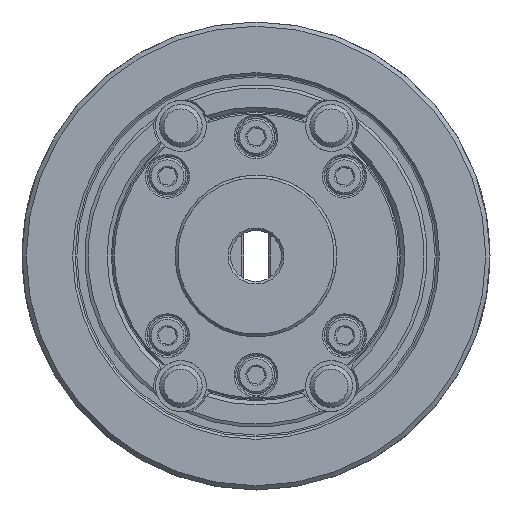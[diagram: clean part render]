
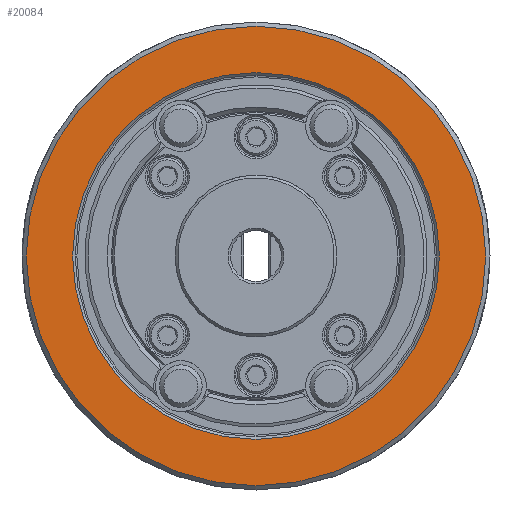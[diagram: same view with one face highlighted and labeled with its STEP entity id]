
A CAD part, left-side view. The second image highlights one B-rep face of the part: STEP entity #20084.
In plain terms, the highlighted planar face has unit normal (-1, 0, 0).
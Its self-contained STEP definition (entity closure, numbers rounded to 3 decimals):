
#49 = AXIS2_PLACEMENT_3D ( 'NONE', #30477, #45502, #7573 ) ;
#76 = DIRECTION ( 'NONE',  ( 0., 0., -1. ) ) ;
#467 = DIRECTION ( 'NONE',  ( 0., 0., -1. ) ) ;
#5152 = CARTESIAN_POINT ( 'NONE',  ( -59., 0., 0. ) ) ;
#6650 = CIRCLE ( 'NONE', #10673, 43.1 ) ;
#7573 = DIRECTION ( 'NONE',  ( 0., 0., -1. ) ) ;
#7851 = PLANE ( 'NONE',  #12711 ) ;
#10673 = AXIS2_PLACEMENT_3D ( 'NONE', #5152, #24284, #467 ) ;
#12711 = AXIS2_PLACEMENT_3D ( 'NONE', #32663, #51477, #76 ) ;
#16392 = VERTEX_POINT ( 'NONE', #53689 ) ;
#17008 = VERTEX_POINT ( 'NONE', #50218 ) ;
#19428 = EDGE_CURVE ( 'NONE', #16392, #16392, #6650, .T. ) ;
#19922 = ORIENTED_EDGE ( 'NONE', *, *, #31598, .F. ) ;
#20084 = ADVANCED_FACE ( 'NONE', ( #31670, #50783 ), #7851, .F. ) ;
#23379 = EDGE_LOOP ( 'NONE', ( #19922 ) ) ;
#24284 = DIRECTION ( 'NONE',  ( 1., 0., 0. ) ) ;
#29573 = ORIENTED_EDGE ( 'NONE', *, *, #19428, .T. ) ;
#30477 = CARTESIAN_POINT ( 'NONE',  ( -59., 0., 0. ) ) ;
#31598 = EDGE_CURVE ( 'NONE', #17008, #17008, #46100, .T. ) ;
#31670 = FACE_OUTER_BOUND ( 'NONE', #23379, .T. ) ;
#32663 = CARTESIAN_POINT ( 'NONE',  ( -59., -43.1, 0. ) ) ;
#45502 = DIRECTION ( 'NONE',  ( 1., 0., 0. ) ) ;
#46100 = CIRCLE ( 'NONE', #49, 54. ) ;
#49106 = EDGE_LOOP ( 'NONE', ( #29573 ) ) ;
#50218 = CARTESIAN_POINT ( 'NONE',  ( -59., 0., -54. ) ) ;
#50783 = FACE_BOUND ( 'NONE', #49106, .T. ) ;
#51477 = DIRECTION ( 'NONE',  ( 1., 0., 0. ) ) ;
#53689 = CARTESIAN_POINT ( 'NONE',  ( -59., 0., -43.1 ) ) ;
